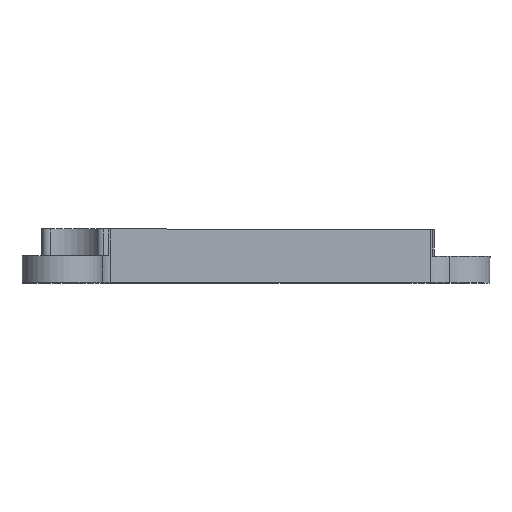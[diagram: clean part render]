
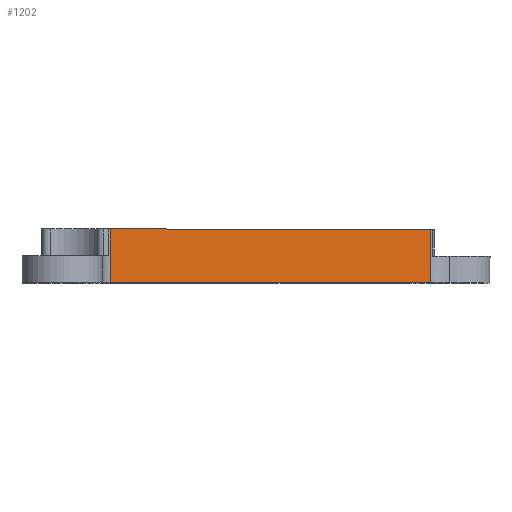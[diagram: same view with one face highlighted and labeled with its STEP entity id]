
A CAD part, top view. The second image highlights one B-rep face of the part: STEP entity #1202.
In plain terms, the highlighted planar face has unit normal (0.707, 0, 0.707).
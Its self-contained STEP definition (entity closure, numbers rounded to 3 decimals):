
#33 = EDGE_CURVE ( 'NONE', #504, #441, #905, .T. ) ;
#37 = VERTEX_POINT ( 'NONE', #1321 ) ;
#100 = VECTOR ( 'NONE', #283, 1000. ) ;
#147 = VECTOR ( 'NONE', #1006, 1000. ) ;
#159 = CARTESIAN_POINT ( 'NONE',  ( -10.914, 0., 13.036 ) ) ;
#195 = ORIENTED_EDGE ( 'NONE', *, *, #33, .F. ) ;
#283 = DIRECTION ( 'NONE',  ( 0., -1., 0. ) ) ;
#329 = DIRECTION ( 'NONE',  ( -0.707, 0., -0.707 ) ) ;
#350 = CARTESIAN_POINT ( 'NONE',  ( 13.036, 4., -10.914 ) ) ;
#361 = CARTESIAN_POINT ( 'NONE',  ( -10.914, 0., 13.036 ) ) ;
#379 = EDGE_CURVE ( 'NONE', #504, #409, #385, .T. ) ;
#385 = LINE ( 'NONE', #361, #100 ) ;
#399 = CARTESIAN_POINT ( 'NONE',  ( -11.602, 4., 13.724 ) ) ;
#409 = VERTEX_POINT ( 'NONE', #159 ) ;
#440 = DIRECTION ( 'NONE',  ( 0., 1., 0. ) ) ;
#441 = VERTEX_POINT ( 'NONE', #1232 ) ;
#455 = DIRECTION ( 'NONE',  ( 0.707, 0., -0.707 ) ) ;
#504 = VERTEX_POINT ( 'NONE', #1339 ) ;
#547 = CARTESIAN_POINT ( 'NONE',  ( -11.602, 0., 13.724 ) ) ;
#550 = DIRECTION ( 'NONE',  ( -0.707, 0., 0.707 ) ) ;
#561 = LINE ( 'NONE', #547, #1218 ) ;
#585 = EDGE_LOOP ( 'NONE', ( #1221, #1248, #195, #987 ) ) ;
#679 = LINE ( 'NONE', #350, #1080 ) ;
#778 = PLANE ( 'NONE',  #787 ) ;
#787 = AXIS2_PLACEMENT_3D ( 'NONE', #877, #329, #550 ) ;
#877 = CARTESIAN_POINT ( 'NONE',  ( -11.602, 4., 13.724 ) ) ;
#905 = LINE ( 'NONE', #399, #147 ) ;
#987 = ORIENTED_EDGE ( 'NONE', *, *, #379, .T. ) ;
#1006 = DIRECTION ( 'NONE',  ( 0.707, 0., -0.707 ) ) ;
#1080 = VECTOR ( 'NONE', #440, 1000. ) ;
#1096 = EDGE_CURVE ( 'NONE', #409, #37, #561, .T. ) ;
#1202 = ADVANCED_FACE ( 'NONE', ( #1274 ), #778, .F. ) ;
#1218 = VECTOR ( 'NONE', #455, 1000. ) ;
#1221 = ORIENTED_EDGE ( 'NONE', *, *, #1096, .T. ) ;
#1232 = CARTESIAN_POINT ( 'NONE',  ( 13.036, 4., -10.914 ) ) ;
#1248 = ORIENTED_EDGE ( 'NONE', *, *, #1296, .T. ) ;
#1274 = FACE_OUTER_BOUND ( 'NONE', #585, .T. ) ;
#1296 = EDGE_CURVE ( 'NONE', #37, #441, #679, .T. ) ;
#1321 = CARTESIAN_POINT ( 'NONE',  ( 13.036, 0., -10.914 ) ) ;
#1339 = CARTESIAN_POINT ( 'NONE',  ( -10.914, 4., 13.036 ) ) ;
